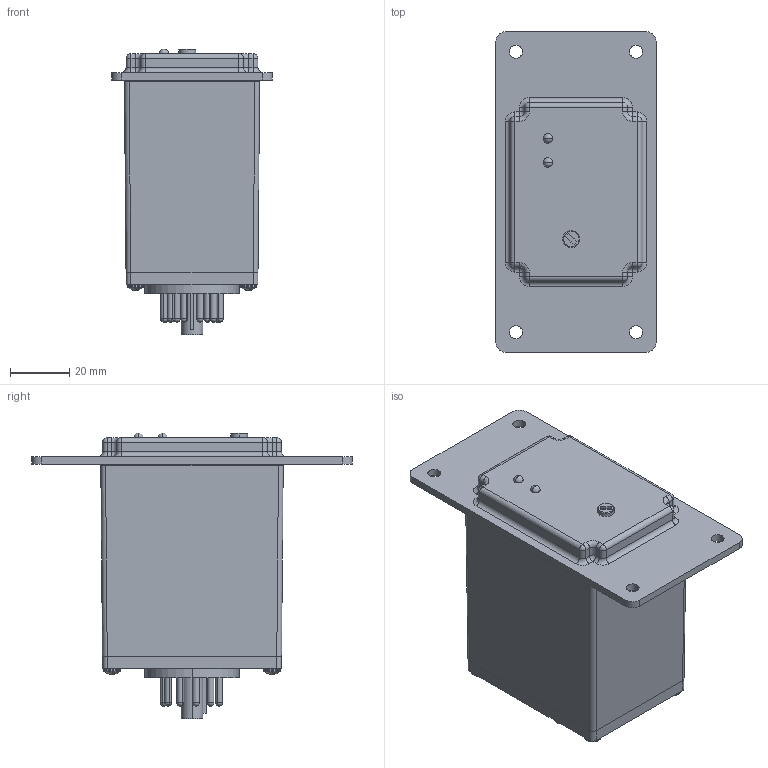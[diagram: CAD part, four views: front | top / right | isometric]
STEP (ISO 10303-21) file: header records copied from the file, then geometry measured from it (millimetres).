
FILE_DESCRIPTION (( 'STEP AP214' ), '1' );
FILE_NAME ('SFF Dual.STEP', '2019-07-03T00:21:37', ( '' ), ( '' ), 'SwSTEP 2.0', 'SolidWorks 2019', '' );
FILE_SCHEMA (( 'AUTOMOTIVE_DESIGN' ));
Length unit declared in the file: millimetre
Products named in the file (1): SFF Dual
Bounding box: 53.98 x 107.95 x 96.33 mm (x, y, z)
Volume: 222335.2 mm3; surface area: 35759.6 mm2
Topology: 19 solids, 19 shells, 809 faces, 2145 edges, 1370 vertices
Faces by surface type: cylinder 300, plane 244, bspline 137, torus 48, cone 42, sphere 38
Entity records: 44002 total; most frequent: CARTESIAN_POINT 19296, ORIENTED_EDGE 4146, DIRECTION 3084, EDGE_CURVE 2073, VERTEX_POINT 1344, AXIS2_PLACEMENT_3D 1106, VECTOR 872, LINE 872
